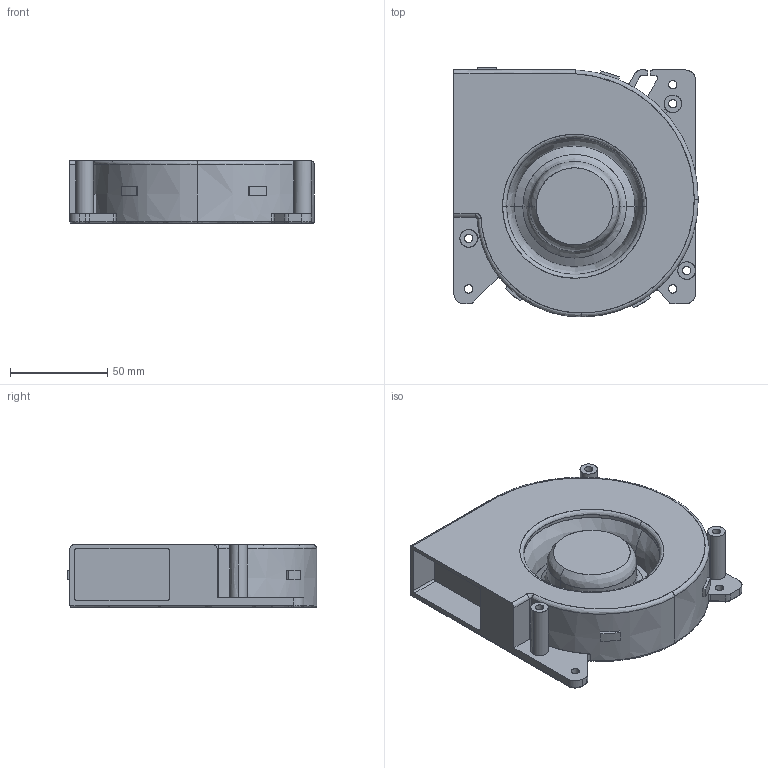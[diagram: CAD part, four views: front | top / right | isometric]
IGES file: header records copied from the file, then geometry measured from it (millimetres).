
Start section: SolidWorks IGES file using analytic representation for surfaces
Bounding box: 125.4 x 128.3 x 32.2 mm (x, y, z)
Surface area: 61213.9 mm2 (no closed solid volume)
Topology: 0 solids, 0 shells, 401 faces, 3685 edges, 3681 vertices
Faces by surface type: revolution 203, bspline 198
